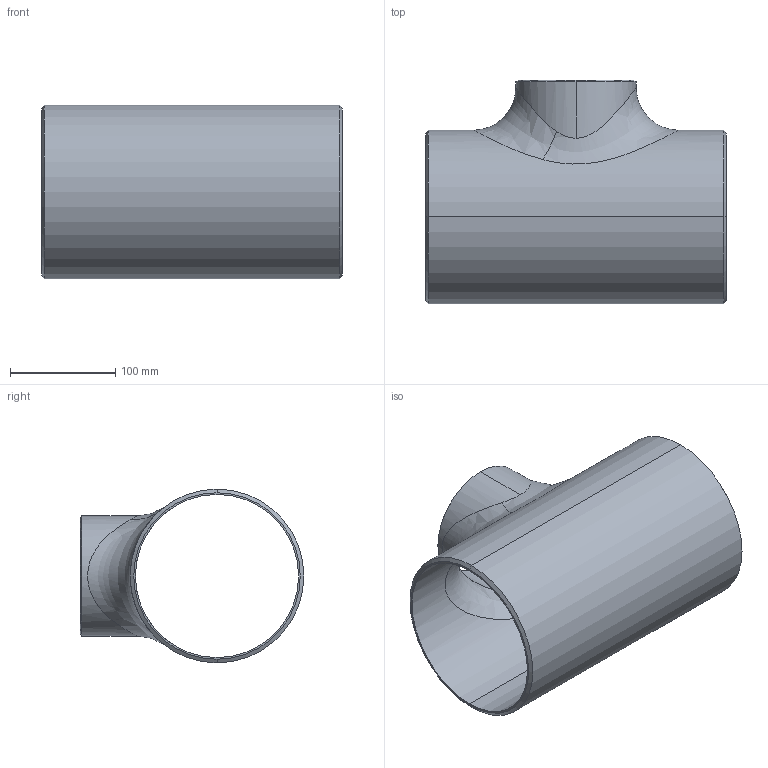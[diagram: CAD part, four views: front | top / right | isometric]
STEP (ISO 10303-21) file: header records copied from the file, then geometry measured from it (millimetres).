
FILE_DESCRIPTION (( 'STEP AP214' ), '1' );
FILE_NAME ('Different-tee_Sch20S-150Ax100A.STEP', '2022-06-30T07:25:34', ( 'ASIS User' ), ( 'ASIS User' ), 'SwSTEP 2.0', 'SolidWorks 2022', '' );
FILE_SCHEMA (( 'AUTOMOTIVE_DESIGN' ));
Length unit declared in the file: millimetre
Products named in the file (1): Different-tee_Sch20S-150Ax100A
Bounding box: 285.8 x 212.8 x 165.2 mm (x, y, z)
Volume: 737188.5 mm3; surface area: 309615.5 mm2
Topology: 1 solids, 1 shells, 21 faces, 48 edges, 30 vertices
Faces by surface type: cylinder 8, cone 6, bspline 4, plane 3
Entity records: 2480 total; most frequent: CARTESIAN_POINT 1982, ORIENTED_EDGE 96, DIRECTION 94, EDGE_CURVE 48, AXIS2_PLACEMENT_3D 40, VERTEX_POINT 30, EDGE_LOOP 26, CIRCLE 22
